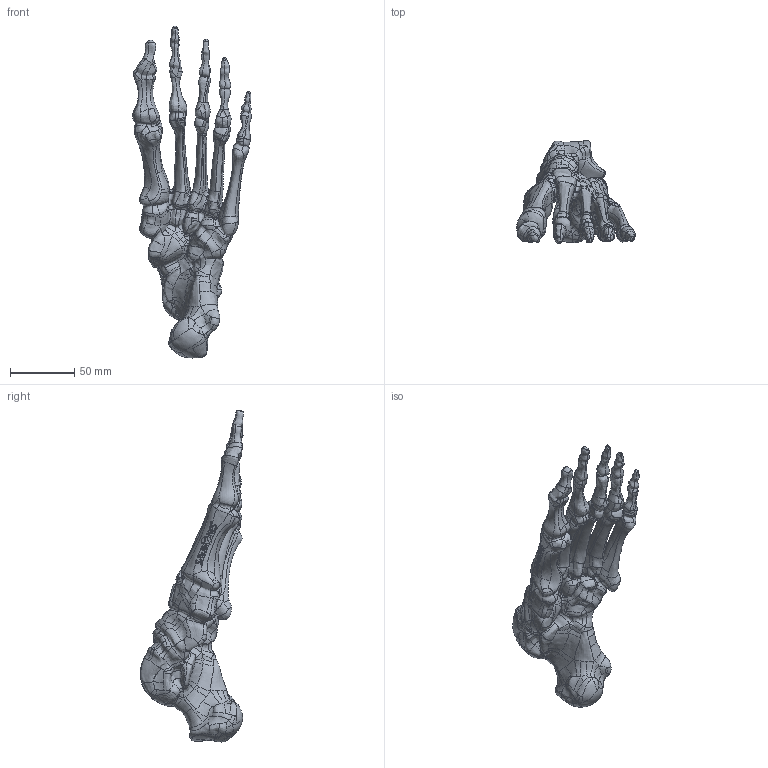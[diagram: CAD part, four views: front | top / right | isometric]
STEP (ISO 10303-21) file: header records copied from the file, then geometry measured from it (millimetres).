
FILE_DESCRIPTION (( 'STEP AP203' ), '1' );
FILE_NAME ('1131.STEP', '2025-06-05T14:54:21', ( '' ), ( '' ), 'SwSTEP 2.0', 'SolidWorks 2024', '' );
FILE_SCHEMA (( 'CONFIG_CONTROL_DESIGN' ));
Products named in the file (1): 1131
Bounding box: 92.27 x 80.35 x 257.98 mm (x, y, z)
Volume: 247234.4 mm3; surface area: 48973.6 mm2
Topology: 1 solids, 1 shells, 933 faces, 2350 edges, 1426 vertices
Faces by surface type: bspline 932, plane 1
Entity records: 367367 total; most frequent: CARTESIAN_POINT 352708, ORIENTED_EDGE 4700, EDGE_CURVE 2350, B_SPLINE_CURVE_WITH_KNOTS 2350, VERTEX_POINT 1426, EDGE_LOOP 940, FACE_OUTER_BOUND 933, ADVANCED_FACE 933
